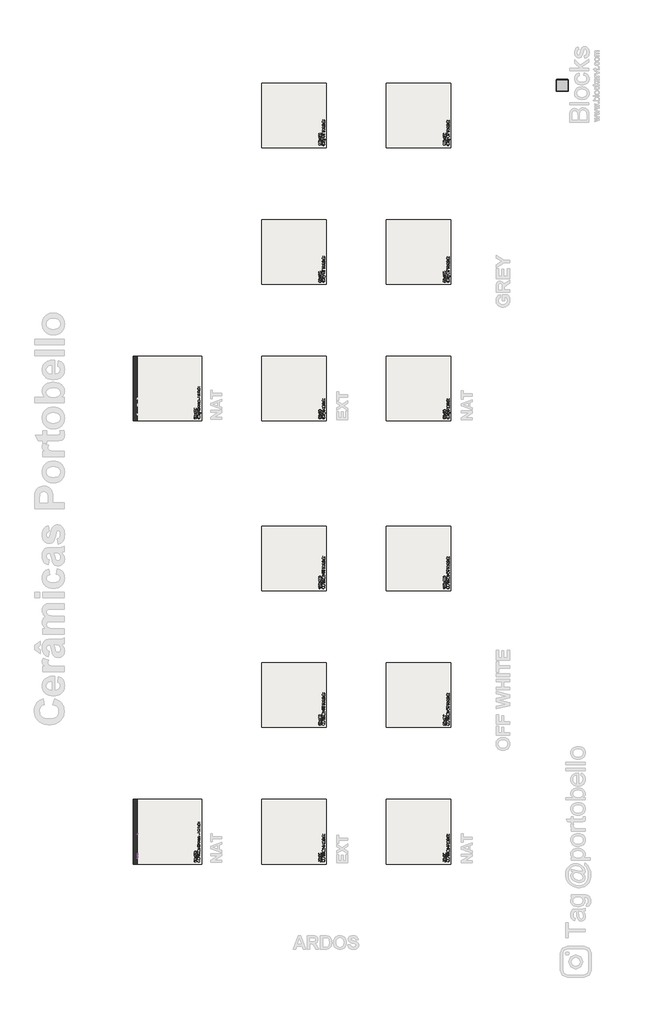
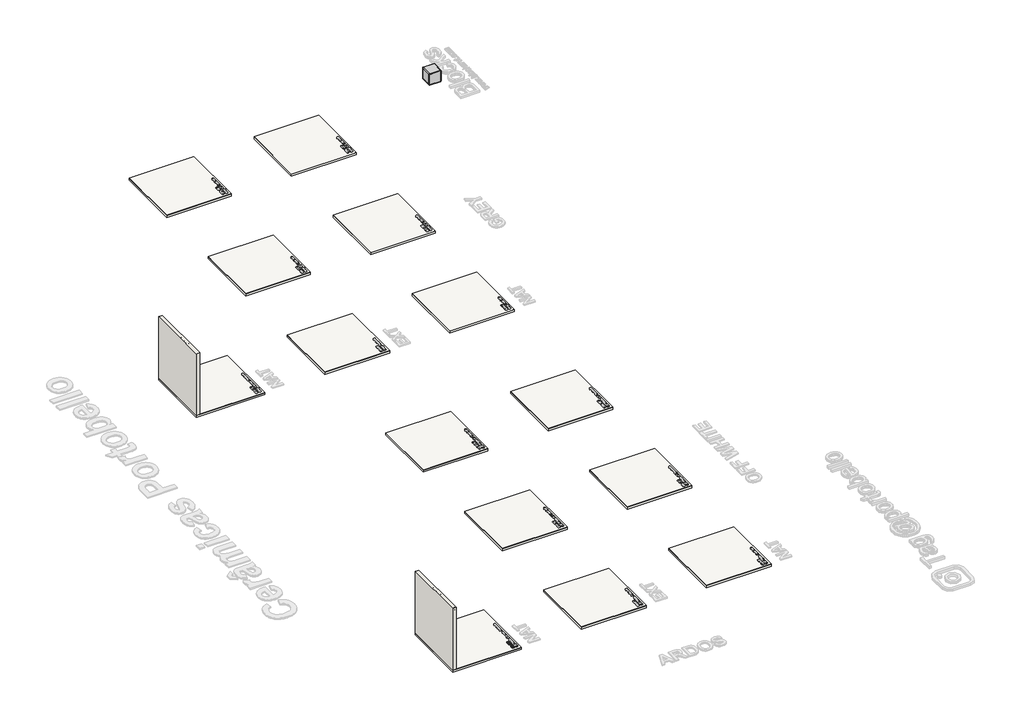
# One storey, part 1 of 12: 28 slabs, 4 proxies, 2 walls, 1 furniture element.
"""IFC4 building model written with IfcOpenShell, lengths in millimetres."""

from ifc_helpers import new_model, si_unit, frame, origin, origin_with_axes, place, context, project, spatial, polyline, outline, extrude, transform, mapped, element, save
from components import branco_22256ad2

model = new_model("IFC4")

# Units and contexts
model_context = context("Model", 3, world=origin())
ifc_project = project(units=[si_unit("LENGTHUNIT", "METRE", prefix="MILLI")], contexts=[model_context])

# Site, building, storey
site = spatial("IfcSite", under=ifc_project)
building = spatial("IfcBuilding", under=site)
storey = spatial("IfcBuildingStorey", under=building, Name="PORTOBELLO - SHOWROOM", Elevation=0.0)

# Proxies
placement = place(None, origin())
element("IfcBuildingElementProxy", 1, Name="10mm Arial", ObjectType="10mm Arial", at=placement, inside=storey, context=model_context, shape_type="SweptSolid", body=[
    extrude(outline(polyline([(-8465.436006, 2565.0933702), (-8462.0882798, 2587.3073114), (-8452.0451014, 2604.1133872), (-8436.7105535, 2614.6899946), (-8417.4887193, 2618.2155303), (-8404.3124125, 2616.5600614), (-8392.4972691, 2611.5936544), (-8382.6870825, 2603.6657974), (-8375.5256464, 2593.1259783), (-8371.1478506, 2580.4831004), (-8369.6885854, 2566.2460672), (-8371.2244927, 2551.8189616), (-8375.8322147, 2538.998274), (-8383.2572996, 2528.4400608), (-8393.2452958, 2520.800378), (-8404.9592717, 2516.1650649), (-8417.5622957, 2514.6199605), (-8430.9409376, 2516.3275461), (-8442.823526, 2521.4503029), (-8452.6091871, 2529.5253127), (-8459.6970469, 2540.0896573), (-8465.436006, 2565.0933702)]), holes=[polyline([(-8452.8789672, 2564.9707429), (-8450.3681726, 2549.2560503), (-8442.8357887, 2537.2814914), (-8431.5142203, 2529.7031223), (-8417.6358721, 2527.1769993), (-8403.5551887, 2529.7276478), (-8392.2152262, 2537.3795933), (-8384.7380247, 2549.7220342), (-8382.2456241, 2566.344169), (-8386.5130553, 2587.0681881), (-8398.9842549, 2600.7901865), (-8417.4151429, 2605.6584916), (-8430.9225435, 2603.3132439), (-8442.4065931, 2596.2775007), (-8450.2608737, 2583.7603158), (-8452.8789672, 2564.9707429)])]), frame((-18710.0482305, 0.0, 0.0), z_axis=(1.0, 0.0, 0.0), x_axis=(0.0, 1.0, 0.0)), (0.0, 0.0, 1.0), 20.0),
    extrude(outline(polyline([(-8310.0426512, 2516.1895903), (-8310.0426512, 2577.4051543), (-8321.0300601, 2577.4051543), (-8321.0300601, 2589.9621931), (-8310.0426512, 2589.9621931), (-8310.0426512, 2597.3934094), (-8308.718276, 2607.8657835), (-8302.2926039, 2615.3460508), (-8289.6374632, 2618.2155303), (-8278.1840704, 2616.8421042), (-8280.0234804, 2605.0698804), (-8287.258493, 2605.6584916), (-8295.1679559, 2603.5738269), (-8297.4856124, 2595.7992541), (-8297.4856124, 2589.9621931), (-8283.3589438, 2589.9621931), (-8283.3589438, 2577.4051543), (-8297.4856124, 2577.4051543), (-8297.4856124, 2516.1895903), (-8310.0426512, 2516.1895903)])), frame((-18710.0482305, 0.0, 0.0), z_axis=(1.0, 0.0, 0.0), x_axis=(0.0, 1.0, 0.0)), (0.0, 0.0, 1.0), 20.0),
    extrude(outline(polyline([(-8350.8530272, 2516.1895903), (-8350.8530272, 2577.4051543), (-8361.8404361, 2577.4051543), (-8361.8404361, 2589.9621931), (-8350.8530272, 2589.9621931), (-8350.8530272, 2597.3934094), (-8349.528652, 2607.8657835), (-8343.1029799, 2615.3460508), (-8330.4478392, 2618.2155303), (-8318.9944464, 2616.8421042), (-8320.8338564, 2605.0698804), (-8328.068869, 2605.6584916), (-8335.9783319, 2603.5738269), (-8338.2959884, 2595.7992541), (-8338.2959884, 2589.9621931), (-8324.1693198, 2589.9621931), (-8324.1693198, 2577.4051543), (-8338.2959884, 2577.4051543), (-8338.2959884, 2516.1895903), (-8350.8530272, 2516.1895903)])), frame((-18710.0482305, 0.0, 0.0), z_axis=(1.0, 0.0, 0.0), x_axis=(0.0, 1.0, 0.0)), (0.0, 0.0, 1.0), 20.0),
    extrude(outline(polyline([(-8213.5839921, 2516.1895903), (-8240.978938, 2616.6459005), (-8228.0294918, 2616.6459005), (-8212.1369896, 2550.6233451), (-8207.2318963, 2530.2426826), (-8201.9834465, 2548.2689003), (-8182.0687678, 2616.6459005), (-8163.4048879, 2616.6459005), (-8148.9348628, 2567.079933), (-8138.1681831, 2530.2426826), (-8133.4102426, 2550.0347339), (-8117.3951131, 2616.6459005), (-8104.4211414, 2616.6459005), (-8131.7915618, 2516.1895903), (-8145.2315174, 2516.1895903), (-8169.3400508, 2593.690064), (-8172.7000397, 2604.5057947), (-8176.4769615, 2591.482772), (-8198.4272539, 2516.1895903), (-8213.5839921, 2516.1895903)])), frame((-18710.0482305, 0.0, 0.0), z_axis=(1.0, 0.0, 0.0), x_axis=(0.0, 1.0, 0.0)), (0.0, 0.0, 1.0), 20.0),
    extrude(outline(polyline([(-8093.4337325, 2516.1895903), (-8093.4337325, 2616.6459005), (-8080.8766937, 2616.6459005), (-8080.8766937, 2579.7105482), (-8071.0849012, 2588.5765043), (-8059.0245032, 2591.531823), (-8044.92236, 2588.3067241), (-8036.3629723, 2579.3917171), (-8033.7877983, 2562.8860783), (-8033.7877983, 2516.1895903), (-8046.3448371, 2516.1895903), (-8046.3448371, 2561.5862285), (-8050.3424881, 2574.8299804), (-8061.6732535, 2578.9747842), (-8071.9616867, 2576.178881), (-8078.8288172, 2568.6005119), (-8080.8766937, 2555.3812856), (-8080.8766937, 2516.1895903), (-8093.4337325, 2516.1895903)])), frame((-18710.0482305, 0.0, 0.0), z_axis=(1.0, 0.0, 0.0), x_axis=(0.0, 1.0, 0.0)), (0.0, 0.0, 1.0), 20.0),
    extrude(outline(polyline([(-18690.0482305, -8003.9648312), (-18690.0482305, -8016.52187), (-18710.0482305, -8016.52187), (-18710.0482305, -8003.9648312), (-18690.0482305, -8003.9648312)])), frame((0.0, 0.0, 2604.0888617), z_axis=(0.0, 0.0, 1.0), x_axis=(1.0, 0.0, 0.0)), (0.0, 0.0, 1.0), 12.5570388),
    extrude(outline(polyline([(-18690.0482305, -8003.9648312), (-18690.0482305, -8016.52187), (-18710.0482305, -8016.52187), (-18710.0482305, -8003.9648312), (-18690.0482305, -8003.9648312)])), frame((0.0, 0.0, 2516.1895903), z_axis=(0.0, 0.0, 1.0), x_axis=(1.0, 0.0, 0.0)), (0.0, 0.0, 1.0), 73.7726028),
    extrude(outline(polyline([(-7958.4455657, 2526.6619645), (-7956.8759358, 2515.8217083), (-7966.2691895, 2514.6199605), (-7976.7906145, 2516.7046251), (-7982.0390643, 2522.1738041), (-7983.5596432, 2536.4231001), (-7983.5596432, 2577.4051543), (-7992.9774223, 2577.4051543), (-7992.9774223, 2589.9621931), (-7983.5596432, 2589.9621931), (-7983.5596432, 2607.890309), (-7971.0026045, 2615.2724744), (-7971.0026045, 2589.9621931), (-7958.4455657, 2589.9621931), (-7958.4455657, 2577.4051543), (-7971.0026045, 2577.4051543), (-7971.0026045, 2536.7909821), (-7970.3404169, 2530.316259), (-7968.1944386, 2528.0231279), (-7963.9147447, 2527.1769993), (-7958.4455657, 2526.6619645)])), frame((-18710.0482305, 0.0, 0.0), z_axis=(1.0, 0.0, 0.0), x_axis=(0.0, 1.0, 0.0)), (0.0, 0.0, 1.0), 20.0),
    extrude(outline(polyline([(-7894.2378948, 2538.1644082), (-7881.9261107, 2536.5947783), (-7886.3621544, 2527.3180207), (-7893.4408171, 2520.3834451), (-7903.0026833, 2516.0608316), (-7914.8883375, 2514.6199605), (-7929.6220114, 2517.1062296), (-7940.9589082, 2524.5650371), (-7948.1877894, 2536.5120049), (-7950.5974165, 2552.4627551), (-7948.1632639, 2568.9499998), (-7940.8608063, 2581.280178), (-7929.6771937, 2588.9689117), (-7915.599576, 2591.531823), (-7901.960351, 2588.9750431), (-7891.0618469, 2581.3047035), (-7883.9157392, 2568.9990508), (-7881.5337032, 2552.5363315), (-7881.6072796, 2549.1518171), (-7938.0403777, 2549.1518171), (-7935.8668082, 2539.7524321), (-7930.8176279, 2532.842382), (-7923.5304987, 2528.5933449), (-7914.6430828, 2527.1769993), (-7902.3312987, 2529.8012242), (-7894.2378948, 2538.1644082)]), holes=[polyline([(-7938.0403777, 2561.7088559), (-7894.090742, 2561.7088559), (-7899.1184626, 2573.0886723), (-7906.4393143, 2577.5032562), (-7915.6486269, 2578.9747842), (-7931.1119335, 2574.2781574), (-7935.9771728, 2568.7875186), (-7938.0403777, 2561.7088559)])]), frame((-18710.0482305, 0.0, 0.0), z_axis=(1.0, 0.0, 0.0), x_axis=(0.0, 1.0, 0.0)), (0.0, 0.0, 1.0), 20.0),
    extrude(outline(polyline([(-7757.5329454, 2551.8986693), (-7744.9759066, 2548.6613078), (-7750.770048, 2534.0288014), (-7759.8628647, 2523.3387638), (-7771.8067668, 2516.7996613), (-7786.1541646, 2514.6199605), (-7800.7192259, 2516.2692981), (-7812.286049, 2521.2173109), (-7821.1520051, 2529.2923207), (-7827.6144655, 2540.3226492), (-7832.875178, 2567.1780349), (-7831.3883216, 2581.8258696), (-7826.9277524, 2594.4748789), (-7819.7264624, 2604.7234582), (-7810.0174434, 2612.1700029), (-7798.5027369, 2616.7041485), (-7785.8843845, 2618.2155303), (-7772.1164008, 2616.2596244), (-7760.7335188, 2610.3919066), (-7752.0913575, 2600.9741275), (-7746.5455365, 2588.3680378), (-7759.1025752, 2585.3759309), (-7769.4032711, 2600.814712), (-7786.3748938, 2605.6584916), (-7806.0197924, 2600.2874144), (-7817.1175659, 2585.8664402), (-7820.3181392, 2567.2025603), (-7816.5289547, 2545.571099), (-7804.7322054, 2531.7509987), (-7787.4049634, 2527.1769993), (-7776.9233922, 2528.7343664), (-7768.1892605, 2533.4064677), (-7761.5949758, 2541.1442523), (-7757.5329454, 2551.8986693)])), frame((-18710.0482305, 0.0, 0.0), z_axis=(1.0, 0.0, 0.0), x_axis=(0.0, 1.0, 0.0)), (0.0, 0.0, 1.0), 20.0),
    extrude(outline(polyline([(-7682.1907128, 2525.6073694), (-7694.3676068, 2517.0970326), (-7707.8198251, 2514.6199605), (-7718.313659, 2516.1098826), (-7726.0545093, 2520.5796488), (-7730.8277782, 2527.3670716), (-7732.4188679, 2535.8099634), (-7730.0153722, 2545.7427773), (-7723.7000646, 2552.9532644), (-7714.9076849, 2557.0735427), (-7704.0429033, 2558.9620036), (-7682.2642892, 2563.2784857), (-7682.1907128, 2566.0743889), (-7685.6488035, 2575.3450152), (-7699.5302175, 2578.9747842), (-7712.2344091, 2576.5590258), (-7718.2921992, 2567.9873753), (-7730.849238, 2569.5570051), (-7725.4168472, 2581.8197383), (-7714.4784892, 2589.0056999), (-7697.9115367, 2591.531823), (-7682.6934848, 2589.3000055), (-7674.0973089, 2583.6959365), (-7670.2468107, 2575.1733369), (-7669.633674, 2564.185928), (-7669.633674, 2548.5632059), (-7668.9960119, 2526.7478036), (-7666.4944143, 2516.1895903), (-7679.0514531, 2516.1895903), (-7682.1907128, 2525.6073694)]), holes=[polyline([(-7682.1907128, 2550.721447), (-7702.448748, 2546.8709487), (-7713.2522159, 2544.835335), (-7718.1450464, 2541.5243971), (-7719.8618291, 2536.6928802), (-7716.1216955, 2529.899326), (-7705.1465493, 2527.1769993), (-7692.4423577, 2530.1813689), (-7684.250852, 2537.4531697), (-7682.2642892, 2547.1652543), (-7682.1907128, 2550.721447)])]), frame((-18710.0482305, 0.0, 0.0), z_axis=(1.0, 0.0, 0.0), x_axis=(0.0, 1.0, 0.0)), (0.0, 0.0, 1.0), 20.0),
    extrude(outline(polyline([(-7587.1300052, 2516.1895903), (-7613.1269996, 2589.9621931), (-7599.8587223, 2589.9621931), (-7584.1133729, 2545.7673028), (-7579.3799579, 2530.9048701), (-7574.7446447, 2544.9334369), (-7558.9257189, 2589.9621931), (-7545.6329162, 2589.9621931), (-7571.2620285, 2516.1895903), (-7587.1300052, 2516.1895903)])), frame((-18710.0482305, 0.0, 0.0), z_axis=(1.0, 0.0, 0.0), x_axis=(0.0, 1.0, 0.0)), (0.0, 0.0, 1.0), 20.0),
    extrude(outline(polyline([(-7652.3677457, 2516.1895903), (-7652.3677457, 2589.9621931), (-7641.3803368, 2589.9621931), (-7641.3803368, 2579.0483606), (-7633.5812385, 2589.1038018), (-7625.7330893, 2591.531823), (-7613.1269996, 2587.6567993), (-7617.3208543, 2576.3996102), (-7626.1500222, 2578.9747842), (-7633.2501447, 2576.4977121), (-7637.7750932, 2569.6305815), (-7639.8107069, 2554.9643526), (-7639.8107069, 2516.1895903), (-7652.3677457, 2516.1895903)])), frame((-18710.0482305, 0.0, 0.0), z_axis=(1.0, 0.0, 0.0), x_axis=(0.0, 1.0, 0.0)), (0.0, 0.0, 1.0), 20.0),
    extrude(outline(polyline([(-7482.9948751, 2538.1644082), (-7470.683091, 2536.5947783), (-7475.1191347, 2527.3180207), (-7482.1977975, 2520.3834451), (-7491.7596637, 2516.0608316), (-7503.6453178, 2514.6199605), (-7518.3789917, 2517.1062296), (-7529.7158885, 2524.5650371), (-7536.9447697, 2536.5120049), (-7539.3543968, 2552.4627551), (-7536.9202443, 2568.9499998), (-7529.6177866, 2581.280178), (-7518.434174, 2588.9689117), (-7504.3565563, 2591.531823), (-7490.7173313, 2588.9750431), (-7479.8188272, 2581.3047035), (-7472.6727195, 2568.9990507), (-7470.2906836, 2552.5363315), (-7470.36426, 2549.1518171), (-7526.797358, 2549.1518171), (-7524.6237886, 2539.7524321), (-7519.5746082, 2532.842382), (-7512.287479, 2528.5933449), (-7503.4000631, 2527.1769993), (-7491.088279, 2529.8012242), (-7482.9948751, 2538.1644082)]), holes=[polyline([(-7526.797358, 2561.7088559), (-7482.8477223, 2561.7088559), (-7487.8754429, 2573.0886723), (-7495.1962946, 2577.5032562), (-7504.4056072, 2578.9747842), (-7519.8689138, 2574.2781574), (-7524.7341532, 2568.7875186), (-7526.797358, 2561.7088559)])]), frame((-18710.0482305, 0.0, 0.0), z_axis=(1.0, 0.0, 0.0), x_axis=(0.0, 1.0, 0.0)), (0.0, 0.0, 1.0), 20.0),
    extrude(outline(polyline([(-7457.7336448, 2516.1895903), (-7457.7336448, 2589.9621931), (-7445.176606, 2589.9621931), (-7445.176606, 2579.6614972), (-7435.5748859, 2588.5642415), (-7422.4660242, 2591.531823), (-7410.6079612, 2589.14059), (-7402.5145573, 2582.8620706), (-7398.7498982, 2573.6282325), (-7398.0877106, 2561.4881267), (-7398.0877106, 2516.1895903), (-7410.6447494, 2516.1895903), (-7410.6447494, 2559.7958695), (-7412.0917519, 2570.9059058), (-7417.2053117, 2576.7797549), (-7425.8260131, 2578.9747842), (-7439.4499096, 2574.0451655), (-7443.7449319, 2566.9021234), (-7445.176606, 2555.3322346), (-7445.176606, 2516.1895903), (-7457.7336448, 2516.1895903)])), frame((-18710.0482305, 0.0, 0.0), z_axis=(1.0, 0.0, 0.0), x_axis=(0.0, 1.0, 0.0)), (0.0, 0.0, 1.0), 20.0),
])
element("IfcBuildingElementProxy", 2, Name="10mm Arial", ObjectType="10mm Arial", at=placement, inside=storey, context=model_context, shape_type="SweptSolid", body=[
    extrude(outline(polyline([(-8401.0811823, 2454.9621931), (-8413.6382211, 2453.3925633), (-8418.3961615, 2463.8649374), (-8430.9777258, 2469.0888617), (-8442.3084912, 2466.0477039), (-8450.8801417, 2454.6310993), (-8454.4485971, 2432.2516113), (-8443.375349, 2442.2702643), (-8429.6533506, 2445.544414), (-8418.052805, 2443.3064652), (-8408.3161949, 2436.5926188), (-8401.712713, 2426.3348425), (-8399.5115524, 2413.4651041), (-8403.6563563, 2396.1378621), (-8415.0606981, 2383.8751289), (-8431.517286, 2379.6199605), (-8445.7635163, 2382.4403891), (-8457.1096102, 2390.901675), (-8464.5316294, 2405.837684), (-8467.0056358, 2428.082282), (-8464.2587836, 2453.0921263), (-8456.0182269, 2470.1925077), (-8444.7671692, 2478.7825523), (-8430.1929108, 2481.6459005), (-8419.1748451, 2479.8739355), (-8410.3518086, 2474.5580407), (-8404.171391, 2466.1151489), (-8401.0811823, 2454.9621931)]), holes=[polyline([(-8454.4485971, 2413.6613078), (-8451.5423293, 2402.7842635), (-8443.8168074, 2394.8870633), (-8432.4983047, 2392.1769993), (-8424.2117627, 2393.5810822), (-8417.6971857, 2397.7933311), (-8413.4757398, 2404.415207), (-8412.0685912, 2413.0481711), (-8413.4573457, 2421.3347131), (-8417.6236093, 2427.6530863), (-8424.2485509, 2431.653803), (-8433.0133395, 2432.9873753), (-8448.2068659, 2427.6530863), (-8452.8881643, 2421.4879972), (-8454.4485971, 2413.6613078)])]), frame((-18710.0482305, 0.0, 0.0), z_axis=(1.0, 0.0, 0.0), x_axis=(0.0, 1.0, 0.0)), (0.0, 0.0, 1.0), 20.0),
    extrude(outline(polyline([(-8388.5241435, 2430.608405), (-8384.8330608, 2459.5116671), (-8373.8701774, 2476.1767215), (-8355.5619168, 2481.6459005), (-8340.8956879, 2478.4085389), (-8330.7666703, 2469.076599), (-8324.8805584, 2454.2141664), (-8322.59969, 2430.608405), (-8326.2539845, 2401.8277703), (-8337.1800797, 2385.1259277), (-8345.4114394, 2380.9964523), (-8355.5619168, 2379.6199605), (-8368.6094648, 2382.0111935), (-8378.5177533, 2389.1848924), (-8386.022546, 2406.1749092), (-8388.5241435, 2430.608405)]), holes=[polyline([(-8375.9671048, 2430.6329305), (-8374.4955768, 2410.880733), (-8370.0809928, 2399.4488), (-8363.5081678, 2393.9949495), (-8355.5619168, 2392.1769993), (-8347.6156657, 2394.0010808), (-8341.0428407, 2399.4733255), (-8336.6282567, 2410.9113899), (-8335.1567288, 2430.6329305), (-8336.5792058, 2449.9406039), (-8340.8466369, 2461.4614417), (-8347.4071992, 2467.1820067), (-8355.7090696, 2469.0888617), (-8363.5694815, 2467.4088673), (-8369.8847891, 2462.3688839), (-8374.4465258, 2450.1306762), (-8375.9671048, 2430.6329305)])]), frame((-18710.0482305, 0.0, 0.0), z_axis=(1.0, 0.0, 0.0), x_axis=(0.0, 1.0, 0.0)), (0.0, 0.0, 1.0), 20.0),
    extrude(outline(polyline([(-8316.3211706, 2381.1895903), (-8289.4903104, 2418.2966209), (-8314.7515408, 2454.9621931), (-8299.6929044, 2454.9621931), (-8287.5037476, 2437.2793319), (-8281.789314, 2428.9651988), (-8276.8351698, 2435.7832784), (-8262.9537558, 2454.9621931), (-8247.8460686, 2454.9621931), (-8274.3826232, 2418.2720955), (-8248.8270872, 2381.1895903), (-8263.910249, 2381.1895903), (-8279.3122419, 2403.5077647), (-8282.108145, 2407.6035176), (-8301.2134833, 2381.1895903), (-8316.3211706, 2381.1895903)])), frame((-18710.0482305, 0.0, 0.0), z_axis=(1.0, 0.0, 0.0), x_axis=(0.0, 1.0, 0.0)), (0.0, 0.0, 1.0), 20.0),
    extrude(outline(polyline([(-8193.8900426, 2381.1895903), (-8206.4470814, 2381.1895903), (-8206.4470814, 2459.4748789), (-8218.3419326, 2451.0013303), (-8231.5611589, 2444.6614972), (-8231.5611589, 2456.531823), (-8213.1547964, 2468.2795213), (-8201.9834465, 2481.6459005), (-8193.8900426, 2481.6459005), (-8193.8900426, 2381.1895903)])), frame((-18710.0482305, 0.0, 0.0), z_axis=(1.0, 0.0, 0.0), x_axis=(0.0, 1.0, 0.0)), (0.0, 0.0, 1.0), 20.0),
    extrude(outline(polyline([(-8099.7122518, 2393.7466291), (-8099.7122518, 2381.1895903), (-8165.6367054, 2381.1895903), (-8164.2878047, 2389.84708), (-8156.648122, 2403.1766709), (-8140.9150353, 2417.7325352), (-8119.2467858, 2438.652758), (-8113.8389205, 2452.8775285), (-8118.9524802, 2464.3922349), (-8132.3065966, 2469.0888617), (-8146.2247988, 2464.5025995), (-8151.5100368, 2451.8229334), (-8164.0670755, 2453.3925633), (-8161.022852, 2465.5388005), (-8154.44083, 2474.4108879), (-8144.664366, 2479.8371473), (-8132.0368165, 2481.6459005), (-8119.3172965, 2479.6348123), (-8109.5592266, 2473.6015475), (-8103.3512179, 2464.5884386), (-8101.2818817, 2453.6378179), (-8103.5136991, 2441.730704), (-8110.9326527, 2429.4189199), (-8128.9220823, 2412.2143053), (-8143.3675819, 2400.1355131), (-8149.0329647, 2393.7466291), (-8099.7122518, 2393.7466291)])), frame((-18710.0482305, 0.0, 0.0), z_axis=(1.0, 0.0, 0.0), x_axis=(0.0, 1.0, 0.0)), (0.0, 0.0, 1.0), 20.0),
    extrude(outline(polyline([(-8087.1552131, 2430.608405), (-8083.4641304, 2459.5116671), (-8072.5012469, 2476.1767215), (-8054.1929863, 2481.6459005), (-8039.5267574, 2478.4085389), (-8029.3977398, 2469.076599), (-8023.5116279, 2454.2141664), (-8021.2307595, 2430.608405), (-8024.885054, 2401.8277703), (-8035.8111493, 2385.1259277), (-8044.0425089, 2380.9964523), (-8054.1929863, 2379.6199605), (-8067.2405344, 2382.0111935), (-8077.1488228, 2389.1848924), (-8084.6536155, 2406.1749092), (-8087.1552131, 2430.608405)]), holes=[polyline([(-8074.5981743, 2430.6329305), (-8073.1266463, 2410.880733), (-8068.7120624, 2399.4488), (-8062.1392374, 2393.9949495), (-8054.1929863, 2392.1769993), (-8046.2467352, 2394.0010808), (-8039.6739102, 2399.4733255), (-8035.2593263, 2410.9113899), (-8033.7877983, 2430.6329305), (-8035.2102754, 2449.9406039), (-8039.4777065, 2461.4614417), (-8046.0382687, 2467.1820067), (-8054.3401391, 2469.0888617), (-8062.2005511, 2467.4088673), (-8068.5158587, 2462.3688839), (-8073.0775954, 2450.1306762), (-8074.5981743, 2430.6329305)])]), frame((-18710.0482305, 0.0, 0.0), z_axis=(1.0, 0.0, 0.0), x_axis=(0.0, 1.0, 0.0)), (0.0, 0.0, 1.0), 20.0),
])
element("IfcBuildingElementProxy", 3, Name="10mm Arial", ObjectType="10mm Arial", at=placement, inside=storey, context=model_context, shape_type="SweptSolid", body=[
    extrude(outline(polyline([(-16299.3925494, -8397.7241802), (-16297.8229195, -8410.281219), (-16308.2952937, -8415.0391594), (-16313.519218, -8427.6207237), (-16310.4780602, -8438.9514891), (-16299.0614556, -8447.5231396), (-16276.6819675, -8451.091595), (-16286.7006205, -8440.0183469), (-16289.9747703, -8426.2963485), (-16287.7368215, -8414.6958029), (-16281.0229751, -8404.9591928), (-16270.7651988, -8398.355711), (-16257.8954603, -8396.1545504), (-16240.5682184, -8400.2993542), (-16228.3054852, -8411.703696), (-16224.0503168, -8428.1602839), (-16226.8707454, -8442.4065142), (-16235.3320313, -8453.7526081), (-16250.2680403, -8461.1746273), (-16272.5126383, -8463.6486337), (-16297.5224826, -8460.9017815), (-16314.622864, -8452.6612248), (-16323.2129086, -8441.4101671), (-16326.0762568, -8426.8359088), (-16324.3042918, -8415.817843), (-16318.988397, -8406.9948065), (-16310.5455052, -8400.814389), (-16299.3925494, -8397.7241802)]), holes=[polyline([(-16258.0916641, -8451.091595), (-16247.2146197, -8448.1853272), (-16239.3174196, -8440.4598053), (-16236.6073555, -8429.1413026), (-16238.0114385, -8420.8547607), (-16242.2236873, -8414.3401837), (-16248.8455632, -8410.1187378), (-16257.4785274, -8408.7115891), (-16265.7650693, -8410.1003437), (-16272.0834426, -8414.2666073), (-16276.0841593, -8420.8915489), (-16277.4177315, -8429.6563374), (-16272.0834426, -8444.8498638), (-16265.9183535, -8449.5311622), (-16258.0916641, -8451.091595)])]), origin_with_axes(), (0.0, 0.0, 1.0), 20.0),
    extrude(outline(polyline([(-16275.0387613, -8385.1671414), (-16303.9420234, -8381.4760588), (-16320.6070778, -8370.5131753), (-16326.0762568, -8352.2049147), (-16322.8388952, -8337.5386858), (-16313.5069553, -8327.4096682), (-16298.6445227, -8321.5235563), (-16275.0387613, -8319.2426879), (-16246.2581265, -8322.8969824), (-16229.556284, -8333.8230776), (-16225.4268086, -8342.0544373), (-16224.0503168, -8352.2049147), (-16226.4415497, -8365.2524628), (-16233.6152486, -8375.1607512), (-16250.6052655, -8382.6655439), (-16275.0387613, -8385.1671414)]), holes=[polyline([(-16275.0632868, -8372.6101027), (-16255.3110893, -8371.1385747), (-16243.8791563, -8366.7239907), (-16238.4253057, -8360.1511658), (-16236.6073555, -8352.2049147), (-16238.4314371, -8344.2586636), (-16243.9036818, -8337.6858386), (-16255.3417461, -8333.2712546), (-16275.0632868, -8331.7997267), (-16294.3709601, -8333.2222037), (-16305.891798, -8337.4896349), (-16311.612363, -8344.0501971), (-16313.519218, -8352.3520675), (-16311.8392235, -8360.2124794), (-16306.7992402, -8366.527787), (-16294.5610325, -8371.0895238), (-16275.0632868, -8372.6101027)])]), origin_with_axes(), (0.0, 0.0, 1.0), 20.0),
    extrude(outline(polyline([(-16225.6199466, -8312.9641685), (-16262.7269772, -8286.1333083), (-16299.3925494, -8311.3945387), (-16299.3925494, -8296.3359023), (-16281.7096881, -8284.1467456), (-16273.3955551, -8278.4323119), (-16280.2136347, -8273.4781677), (-16299.3925494, -8259.5967537), (-16299.3925494, -8244.4890665), (-16262.7024517, -8271.0256211), (-16225.6199466, -8245.4700851), (-16225.6199466, -8260.5532469), (-16247.938121, -8275.9552398), (-16252.0338739, -8278.751143), (-16225.6199466, -8297.8564812), (-16225.6199466, -8312.9641685)])), origin_with_axes(), (0.0, 0.0, 1.0), 20.0),
    extrude(outline(polyline([(-16225.6199466, -8190.5330405), (-16225.6199466, -8203.0900793), (-16303.9052352, -8203.0900793), (-16295.4316866, -8214.9849305), (-16289.0918535, -8228.2041568), (-16300.9621792, -8228.2041568), (-16312.7098776, -8209.7977943), (-16326.0762568, -8198.6264444), (-16326.0762568, -8190.5330405), (-16225.6199466, -8190.5330405)])), origin_with_axes(), (0.0, 0.0, 1.0), 20.0),
    extrude(outline(polyline([(-16238.1769854, -8096.3552498), (-16225.6199466, -8096.3552498), (-16225.6199466, -8162.2797033), (-16234.2774362, -8160.9308026), (-16247.6070272, -8153.2911199), (-16262.1628915, -8137.5580332), (-16283.0831143, -8115.8897837), (-16297.3078847, -8110.4819184), (-16308.8225912, -8115.5954781), (-16313.519218, -8128.9495945), (-16308.9329558, -8142.8677967), (-16296.2532897, -8148.1530347), (-16297.8229195, -8160.7100734), (-16309.9691567, -8157.6658499), (-16318.8412442, -8151.0838279), (-16324.2675036, -8141.3073639), (-16326.0762568, -8128.6798144), (-16324.0651685, -8115.9602944), (-16318.0319038, -8106.2022245), (-16309.0187949, -8099.9942158), (-16298.0681742, -8097.9248796), (-16286.1610603, -8100.156697), (-16273.8492762, -8107.5756506), (-16256.6446615, -8125.5650802), (-16244.5658694, -8140.0105798), (-16238.1769854, -8145.6759626), (-16238.1769854, -8096.3552498)])), origin_with_axes(), (0.0, 0.0, 1.0), 20.0),
    extrude(outline(polyline([(-16275.0387613, -8083.798211), (-16303.9420234, -8080.1071283), (-16320.6070778, -8069.1442448), (-16326.0762568, -8050.8359842), (-16322.8388952, -8036.1697553), (-16313.5069553, -8026.0407377), (-16298.6445227, -8020.1546258), (-16275.0387613, -8017.8737575), (-16246.2581265, -8021.5280519), (-16229.556284, -8032.4541472), (-16225.4268086, -8040.6855068), (-16224.0503168, -8050.8359842), (-16226.4415497, -8063.8835323), (-16233.6152486, -8073.7918207), (-16250.6052655, -8081.2966134), (-16275.0387613, -8083.798211)]), holes=[polyline([(-16275.0632868, -8071.2411722), (-16255.3110893, -8069.7696442), (-16243.8791563, -8065.3550603), (-16238.4253057, -8058.7822353), (-16236.6073555, -8050.8359842), (-16238.4314371, -8042.8897331), (-16243.9036818, -8036.3169081), (-16255.3417461, -8031.9023242), (-16275.0632868, -8030.4307962), (-16294.3709601, -8031.8532733), (-16305.891798, -8036.1207044), (-16311.612363, -8042.6812667), (-16313.519218, -8050.983137), (-16311.8392235, -8058.843549), (-16306.7992402, -8065.1588566), (-16294.5610325, -8069.7205933), (-16275.0632868, -8071.2411722)])]), origin_with_axes(), (0.0, 0.0, 1.0), 20.0),
])
element("IfcBuildingElementProxy", 4, Name="10mm Arial Narrow", ObjectType="10mm Arial Narrow", at=placement, inside=storey, context=model_context, shape_type="SweptSolid", body=[
    extrude(outline(polyline([(-7316.9412929, 2516.1895903), (-7316.9412929, 2616.9081941), (-7285.6444082, 2616.9081941), (-7269.3487067, 2615.0298734), (-7257.8757206, 2605.5494302), (-7253.5860421, 2588.5303214), (-7255.3723505, 2576.4544958), (-7260.7312757, 2566.8281021), (-7270.4750646, 2560.5268436), (-7285.4159638, 2558.4264242), (-7307.1943312, 2558.4264242), (-7307.1943312, 2516.1895903), (-7316.9412929, 2516.1895903)]), holes=[polyline([(-7307.1943312, 2569.7978794), (-7284.2229763, 2569.7978794), (-7268.3587809, 2574.3286936), (-7263.3330038, 2587.9972844), (-7265.8078183, 2598.1630608), (-7271.7854471, 2603.9630106), (-7284.4514207, 2605.5367388), (-7307.1943312, 2605.5367388), (-7307.1943312, 2569.7978794)])]), frame((-18710.0482305, 0.0, 0.0), z_axis=(1.0, 0.0, 0.0), x_axis=(0.0, 1.0, 0.0)), (0.0, 0.0, 1.0), 20.0),
    extrude(outline(polyline([(-7245.4635741, 2552.7406965), (-7243.5091052, 2569.3314721), (-7237.6456986, 2581.2835569), (-7228.7871319, 2588.5081115), (-7217.8471827, 2590.9162964), (-7207.0341472, 2588.5081115), (-7198.1501977, 2581.2835569), (-7192.210643, 2569.5218424), (-7190.2307914, 2553.5021779), (-7192.1757417, 2536.3402913), (-7198.0105928, 2524.1978362), (-7206.859641, 2516.9732816), (-7217.8471827, 2514.5650967), (-7228.7078109, 2516.9796273), (-7237.5822418, 2524.2232189), (-7243.493241, 2536.1816494), (-7245.4635741, 2552.7406965)]), holes=[polyline([(-7235.7166124, 2552.7660793), (-7234.4125756, 2540.2143279), (-7230.500465, 2531.3430698), (-7224.6592682, 2526.0698112), (-7217.5679729, 2524.3120584), (-7210.8478997, 2526.0856754), (-7205.1558264, 2531.4065266), (-7201.2722714, 2540.2936488), (-7199.977753, 2552.7660793), (-7201.2817899, 2565.2797566), (-7205.1939005, 2574.1383233), (-7211.0350972, 2579.4115818), (-7218.1263926, 2581.1693347), (-7224.8940583, 2579.4020633), (-7230.5766131, 2574.1002492), (-7234.4316126, 2565.232164), (-7235.7166124, 2552.7660793)])]), frame((-18710.0482305, 0.0, 0.0), z_axis=(1.0, 0.0, 0.0), x_axis=(0.0, 1.0, 0.0)), (0.0, 0.0, 1.0), 20.0),
    extrude(outline(polyline([(-7118.7530726, 2524.3120584), (-7117.128579, 2514.5650967), (-7124.4895657, 2514.5650967), (-7132.76433, 2516.6845532), (-7137.0793911, 2522.4845031), (-7138.2469959, 2537.1303283), (-7138.2469959, 2579.5448411), (-7146.3694639, 2579.5448411), (-7146.3694639, 2582.7938283), (-7147.9939576, 2577.9203475), (-7155.5580059, 2579.5448411), (-7161.6371656, 2577.2223229), (-7165.5080293, 2570.7370398), (-7167.4878809, 2555.3297332), (-7167.4878809, 2516.1895903), (-7177.2348425, 2516.1895903), (-7177.2348425, 2589.2918027), (-7167.4878809, 2589.2918027), (-7167.4878809, 2579.5956065), (-7161.2437336, 2588.6826176), (-7154.84729, 2590.9162964), (-7146.3694639, 2589.2918027), (-7138.2469959, 2589.2918027), (-7138.2469959, 2605.5367388), (-7128.5000342, 2613.6592069), (-7128.5000342, 2589.2918027), (-7118.7530726, 2589.2918027), (-7118.7530726, 2579.5448411), (-7128.5000342, 2579.5448411), (-7128.5000342, 2534.8966496), (-7127.637022, 2526.9010951), (-7123.0173683, 2524.3120584), (-7118.7530726, 2524.3120584)])), frame((-18710.0482305, 0.0, 0.0), z_axis=(1.0, 0.0, 0.0), x_axis=(0.0, 1.0, 0.0)), (0.0, 0.0, 1.0), 20.0),
    extrude(outline(polyline([(-7112.2550982, 2552.7406965), (-7110.3006293, 2569.3314721), (-7104.4372227, 2581.2835569), (-7095.578656, 2588.5081115), (-7084.6387068, 2590.9162964), (-7073.8256712, 2588.5081115), (-7064.9417218, 2581.2835569), (-7059.002167, 2569.5218424), (-7057.0223155, 2553.5021779), (-7058.9672658, 2536.3402913), (-7064.8021169, 2524.1978362), (-7073.6511651, 2516.9732816), (-7084.6387068, 2514.5650967), (-7095.499335, 2516.9796273), (-7104.3737659, 2524.2232189), (-7110.2847651, 2536.1816494), (-7112.2550982, 2552.7406965)]), holes=[polyline([(-7102.5081365, 2552.7660793), (-7101.2040996, 2540.2143279), (-7097.2919891, 2531.3430698), (-7091.4507923, 2526.0698112), (-7084.359497, 2524.3120584), (-7077.6394238, 2526.0856754), (-7071.9473505, 2531.4065266), (-7068.0637955, 2540.2936488), (-7066.7692771, 2552.7660793), (-7068.073314, 2565.2797566), (-7071.9854246, 2574.1383233), (-7077.8266213, 2579.4115818), (-7084.9179166, 2581.1693347), (-7091.6855824, 2579.4020633), (-7097.3681372, 2574.1002492), (-7101.2231367, 2565.232164), (-7102.5081365, 2552.7660793)])]), frame((-18710.0482305, 0.0, 0.0), z_axis=(1.0, 0.0, 0.0), x_axis=(0.0, 1.0, 0.0)), (0.0, 0.0, 1.0), 20.0),
    extrude(outline(polyline([(-7034.2794049, 2516.1895903), (-7044.0263666, 2516.1895903), (-7044.0263666, 2616.9081941), (-7034.2794049, 2616.9081941), (-7034.2794049, 2581.49931), (-7026.8803442, 2588.5810868), (-7017.6791109, 2590.9162964), (-7004.7973842, 2586.7154574), (-6995.5200027, 2573.986027), (-6992.0425711, 2553.2991162), (-6993.9748301, 2536.8447728), (-6999.7716071, 2524.6420337), (-7008.1447294, 2517.084331), (-7017.8060244, 2514.5650967), (-7027.1468627, 2517.1795161), (-7034.2794049, 2524.9466262), (-7034.2794049, 2516.1895903)]), holes=[polyline([(-7034.2794049, 2553.2991162), (-7032.1980225, 2536.051563), (-7026.3092332, 2527.3199098), (-7017.8567899, 2524.3120584), (-7011.9140623, 2526.1015396), (-7006.6757049, 2531.4699834), (-7001.7895328, 2552.8929928), (-7006.4980259, 2574.3286936), (-7011.7427289, 2579.4591744), (-7018.0598516, 2581.1693347), (-7024.0374804, 2579.3798535), (-7029.329776, 2574.0114097), (-7034.2794049, 2553.2991162)])]), frame((-18710.0482305, 0.0, 0.0), z_axis=(1.0, 0.0, 0.0), x_axis=(0.0, 1.0, 0.0)), (0.0, 0.0, 1.0), 20.0),
    extrude(outline(polyline([(-6940.0587756, 2538.9325009), (-6930.311814, 2537.3080073), (-6934.0113443, 2527.4214407), (-6939.8303312, 2520.3015898), (-6947.5339845, 2515.99922), (-6956.8875141, 2514.5650967), (-6968.4810681, 2516.9796273), (-6977.6251903, 2524.2232189), (-6983.5647451, 2536.0293531), (-6985.5445967, 2552.1315114), (-6983.5552266, 2568.7984351), (-6977.5871163, 2580.9789644), (-6968.5730804, 2588.4319634), (-6957.4459338, 2590.9162964), (-6946.7629846, 2588.51763), (-6938.0154672, 2581.321631), (-6932.1806162, 2569.5821264), (-6930.2356658, 2553.5529433), (-6930.311814, 2550.3039561), (-6975.797635, 2550.3039561), (-6969.7946235, 2530.8607982), (-6963.8645872, 2525.9492434), (-6956.7606005, 2524.3120584), (-6946.5821328, 2527.967169), (-6940.0587756, 2538.9325009)]), holes=[polyline([(-6975.1376845, 2560.0509178), (-6940.0587756, 2560.0509178), (-6944.3230713, 2574.3160023), (-6950.1484039, 2579.4560016), (-6957.3697856, 2581.1693347), (-6969.5788704, 2575.4582244), (-6975.1376845, 2560.0509178)])]), frame((-18710.0482305, 0.0, 0.0), z_axis=(1.0, 0.0, 0.0), x_axis=(0.0, 1.0, 0.0)), (0.0, 0.0, 1.0), 20.0),
    extrude(outline(polyline([(-18690.0482305, -6907.5689034), (-18690.0482305, -6917.3158651), (-18710.0482305, -6917.3158651), (-18710.0482305, -6907.5689034), (-18690.0482305, -6907.5689034)])), frame((0.0, 0.0, 2516.1895903), z_axis=(0.0, 0.0, 1.0), x_axis=(1.0, 0.0, 0.0)), (0.0, 0.0, 1.0), 100.7186038),
    extrude(outline(polyline([(-18690.0482305, -6881.5770057), (-18690.0482305, -6891.3239673), (-18710.0482305, -6891.3239673), (-18710.0482305, -6881.5770057), (-18690.0482305, -6881.5770057)])), frame((0.0, 0.0, 2516.1895903), z_axis=(0.0, 0.0, 1.0), x_axis=(1.0, 0.0, 0.0)), (0.0, 0.0, 1.0), 100.7186038),
    extrude(outline(polyline([(-6870.2055504, 2552.7406965), (-6868.2510816, 2569.3314721), (-6862.3876749, 2581.2835569), (-6853.5291082, 2588.5081115), (-6842.5891591, 2590.9162964), (-6831.7761235, 2588.5081115), (-6822.8921741, 2581.2835569), (-6816.9526193, 2569.5218424), (-6814.9727677, 2553.5021779), (-6816.9177181, 2536.3402913), (-6822.7525692, 2524.1978362), (-6831.6016173, 2516.9732816), (-6842.5891591, 2514.5650967), (-6853.4497872, 2516.9796273), (-6862.3242182, 2524.2232189), (-6868.2352174, 2536.1816494), (-6870.2055504, 2552.7406965)]), holes=[polyline([(-6860.4585888, 2552.7660793), (-6859.1545519, 2540.2143279), (-6855.2424413, 2531.3430698), (-6849.4012446, 2526.0698112), (-6842.3099492, 2524.3120584), (-6835.5898761, 2526.0856754), (-6829.8978028, 2531.4065266), (-6826.0142477, 2540.2936488), (-6824.7197294, 2552.7660793), (-6826.0237662, 2565.2797566), (-6829.9358768, 2574.1383233), (-6835.7770736, 2579.4115818), (-6842.8683689, 2581.1693347), (-6849.6360347, 2579.4020633), (-6855.3185895, 2574.1002492), (-6859.1735889, 2565.232164), (-6860.4585888, 2552.7660793)])]), frame((-18710.0482305, 0.0, 0.0), z_axis=(1.0, 0.0, 0.0), x_axis=(0.0, 1.0, 0.0)), (0.0, 0.0, 1.0), 20.0),
])

# Furniture
branco_shape = branco_22256ad2(model_context)
element("IfcFurniture", 5, ObjectType="Blks_Mob_Blocks Revit_Cubo : Branco", at=placement, inside=storey, context=model_context, shape_type="MappedRepresentation", body=[
    mapped(branco_shape, transform((-964.7851729, 23956.268986, 0.0), x_axis=(1.0, 0.0, 0.0), y_axis=(0.0, 1.0, 0.0), z_axis=(0.0, 0.0, 1.0))),
])

# Slabs
element("IfcSlab", 6, ObjectType="PORTOBELLO - LAJE", at=placement, inside=storey, context=model_context, shape_type="SweptSolid", body=[
    extrude(outline(polyline([(-10810.0232144, -5845.8665689), (-10810.0232144, -8545.8665689), (-13510.0232144, -8545.8665689), (-13510.0232144, -5845.8665689), (-10810.0232144, -5845.8665689)])), frame((0.0, 0.0, -80.0), z_axis=(0.0, 0.0, 1.0), x_axis=(1.0, 0.0, 0.0)), (0.0, 0.0, 1.0), 80.0),
])
element("IfcSlab", 7, ObjectType="PORTOBELLO - ARDOS OFF WHITE 90X90 EXT RET", at=placement, inside=storey, context=model_context, shape_type="SweptSolid", body=[
    extrude(outline(polyline([(-10810.0232144, -8545.8665689), (-13510.0232144, -8545.8665689), (-13510.0232144, -5845.8665689), (-10810.0232144, -5845.8665689), (-10810.0232144, -8545.8665689)])), origin_with_axes(), (0.0, 0.0, 1.0), 18.0),
])
element("IfcSlab", 8, ObjectType="PORTOBELLO - LAJE", at=placement, inside=storey, context=model_context, shape_type="SweptSolid", body=[
    extrude(outline(polyline([(-5609.9981983, -5845.8665689), (-5609.9981983, -8545.8665689), (-8309.9981983, -8545.8665689), (-8309.9981983, -5845.8665689), (-5609.9981983, -5845.8665689)])), frame((0.0, 0.0, -80.0), z_axis=(0.0, 0.0, 1.0), x_axis=(1.0, 0.0, 0.0)), (0.0, 0.0, 1.0), 80.0),
])
element("IfcSlab", 9, ObjectType="PORTOBELLO - ARDOS OFF WHITE 90X90 NAT RET", at=placement, inside=storey, context=model_context, shape_type="SweptSolid", body=[
    extrude(outline(polyline([(-5609.9981983, -8545.8665689), (-8309.9981983, -8545.8665689), (-8309.9981983, -5845.8665689), (-5609.9981983, -5845.8665689), (-5609.9981983, -8545.8665689)])), origin_with_axes(), (0.0, 0.0, 1.0), 18.0),
])
element("IfcSlab", 10, ObjectType="PORTOBELLO - LAJE", at=placement, inside=storey, context=model_context, shape_type="SweptSolid", body=[
    extrude(outline(polyline([(-5609.9981983, -145.8665689), (-5609.9981983, -2845.8665689), (-8309.9981983, -2845.8665689), (-8309.9981983, -145.8665689), (-5609.9981983, -145.8665689)])), frame((0.0, 0.0, -80.0), z_axis=(0.0, 0.0, 1.0), x_axis=(1.0, 0.0, 0.0)), (0.0, 0.0, 1.0), 80.0),
])
element("IfcSlab", 11, ObjectType="PORTOBELLO - ARDOS OFF WHITE ST 60X120 NAT RET", at=placement, inside=storey, context=model_context, shape_type="SweptSolid", body=[
    extrude(outline(polyline([(-5609.9981983, -2845.8665689), (-8309.9981983, -2845.8665689), (-8309.9981983, -145.8665689), (-5609.9981983, -145.8665689), (-5609.9981983, -2845.8665689)])), origin_with_axes(), (0.0, 0.0, 1.0), 19.0),
])
element("IfcSlab", 12, ObjectType="PORTOBELLO - LAJE", at=placement, inside=storey, context=model_context, shape_type="SweptSolid", body=[
    extrude(outline(polyline([(-10810.0232144, -145.8665689), (-10810.0232144, -2845.8665689), (-13510.0232144, -2845.8665689), (-13510.0232144, -145.8665689), (-10810.0232144, -145.8665689)])), frame((0.0, 0.0, -80.0), z_axis=(0.0, 0.0, 1.0), x_axis=(1.0, 0.0, 0.0)), (0.0, 0.0, 1.0), 80.0),
])
element("IfcSlab", 13, ObjectType="PORTOBELLO - ARDOS OFF WHITE ST 60X120 EXT RET", at=placement, inside=storey, context=model_context, shape_type="SweptSolid", body=[
    extrude(outline(polyline([(-10810.0232144, -2845.8665689), (-13510.0232144, -2845.8665689), (-13510.0232144, -145.8665689), (-10810.0232144, -145.8665689), (-10810.0232144, -2845.8665689)])), origin_with_axes(), (0.0, 0.0, 1.0), 19.0),
])
element("IfcSlab", 14, ObjectType="PORTOBELLO - LAJE", at=placement, inside=storey, context=model_context, shape_type="SweptSolid", body=[
    extrude(outline(polyline([(-5609.9981983, 5554.1334311), (-5609.9981983, 2854.1334311), (-8309.9981983, 2854.1334311), (-8309.9981983, 5554.1334311), (-5609.9981983, 5554.1334311)])), frame((0.0, 0.0, -80.0), z_axis=(0.0, 0.0, 1.0), x_axis=(1.0, 0.0, 0.0)), (0.0, 0.0, 1.0), 80.0),
])
element("IfcSlab", 15, ObjectType="PORTOBELLO - ARDOS OFF WHITE ST 120X120 NAT RET", at=placement, inside=storey, context=model_context, shape_type="SweptSolid", body=[
    extrude(outline(polyline([(-5609.9981983, 2854.1334311), (-8309.9981983, 2854.1334311), (-8309.9981983, 5554.1334311), (-5609.9981983, 5554.1334311), (-5609.9981983, 2854.1334311)])), origin_with_axes(), (0.0, 0.0, 1.0), 17.0),
])
element("IfcSlab", 16, ObjectType="PORTOBELLO - LAJE", at=placement, inside=storey, context=model_context, shape_type="SweptSolid", body=[
    extrude(outline(polyline([(-10810.0232144, 5554.1334311), (-10810.0232144, 2854.1334311), (-13510.0232144, 2854.1334311), (-13510.0232144, 5554.1334311), (-10810.0232144, 5554.1334311)])), frame((0.0, 0.0, -80.0), z_axis=(0.0, 0.0, 1.0), x_axis=(1.0, 0.0, 0.0)), (0.0, 0.0, 1.0), 80.0),
])
element("IfcSlab", 17, ObjectType="PORTOBELLO - ARDOS OFF WHITE ST 120X120 EXT RET", at=placement, inside=storey, context=model_context, shape_type="SweptSolid", body=[
    extrude(outline(polyline([(-10810.0232144, 2854.1334311), (-13510.0232144, 2854.1334311), (-13510.0232144, 5554.1334311), (-10810.0232144, 5554.1334311), (-10810.0232144, 2854.1334311)])), origin_with_axes(), (0.0, 0.0, 1.0), 17.0),
])
element("IfcSlab", 18, ObjectType="PORTOBELLO - ARDOS OFF WHITE CARVEN 60X120 NAT RET", at=placement, inside=storey, context=model_context, shape_type="SweptSolid", body=[
    extrude(outline(polyline([(-16010.0482305, -8545.8665689), (-18710.0482305, -8545.8665689), (-18710.0482305, -5845.8665689), (-16010.0482305, -5845.8665689), (-16010.0482305, -8545.8665689)])), frame((0.0, 0.0, -19.0), z_axis=(0.0, 0.0, 1.0), x_axis=(1.0, 0.0, 0.0)), (0.0, 0.0, 1.0), 19.0),
])
element("IfcSlab", 19, ObjectType="PORTOBELLO - LAJE", at=placement, inside=storey, context=model_context, shape_type="SweptSolid", body=[
    extrude(outline(polyline([(-16010.0482305, -5845.8665689), (-16010.0482305, -8545.8665689), (-18860.0482305, -8545.8665689), (-18860.0482305, -5845.8665689), (-16010.0482305, -5845.8665689)])), frame((0.0, 0.0, -99.0), z_axis=(0.0, 0.0, 1.0), x_axis=(1.0, 0.0, 0.0)), (0.0, 0.0, 1.0), 80.0),
])
element("IfcSlab", 20, ObjectType="PORTOBELLO - LAJE", at=placement, inside=storey, context=model_context, shape_type="SweptSolid", body=[
    extrude(outline(polyline([(-10810.0232144, 12654.1334311), (-10810.0232144, 9954.1334311), (-13510.0232144, 9954.1334311), (-13510.0232144, 12654.1334311), (-10810.0232144, 12654.1334311)])), frame((0.0, 0.0, -80.0), z_axis=(0.0, 0.0, 1.0), x_axis=(1.0, 0.0, 0.0)), (0.0, 0.0, 1.0), 80.0),
])
element("IfcSlab", 21, ObjectType="PORTOBELLO - ARDOS GREY 90X90 EXT RET", at=placement, inside=storey, context=model_context, shape_type="SweptSolid", body=[
    extrude(outline(polyline([(-10810.0232144, 9954.1334311), (-13510.0232144, 9954.1334311), (-13510.0232144, 12654.1334311), (-10810.0232144, 12654.1334311), (-10810.0232144, 9954.1334311)])), origin_with_axes(), (0.0, 0.0, 1.0), 18.0),
])
element("IfcSlab", 22, ObjectType="PORTOBELLO - LAJE", at=placement, inside=storey, context=model_context, shape_type="SweptSolid", body=[
    extrude(outline(polyline([(-5609.9981983, 12654.1334311), (-5609.9981983, 9954.1334311), (-8309.9981983, 9954.1334311), (-8309.9981983, 12654.1334311), (-5609.9981983, 12654.1334311)])), frame((0.0, 0.0, -80.0), z_axis=(0.0, 0.0, 1.0), x_axis=(1.0, 0.0, 0.0)), (0.0, 0.0, 1.0), 80.0),
])
element("IfcSlab", 23, ObjectType="PORTOBELLO - ARDOS GREY 90X90 NAT RET", at=placement, inside=storey, context=model_context, shape_type="SweptSolid", body=[
    extrude(outline(polyline([(-5609.9981983, 9954.1334311), (-8309.9981983, 9954.1334311), (-8309.9981983, 12654.1334311), (-5609.9981983, 12654.1334311), (-5609.9981983, 9954.1334311)])), origin_with_axes(), (0.0, 0.0, 1.0), 18.0),
])
element("IfcSlab", 24, ObjectType="PORTOBELLO - LAJE", at=placement, inside=storey, context=model_context, shape_type="SweptSolid", body=[
    extrude(outline(polyline([(-5609.9981983, 18354.1334311), (-5609.9981983, 15654.1334311), (-8309.9981983, 15654.1334311), (-8309.9981983, 18354.1334311), (-5609.9981983, 18354.1334311)])), frame((0.0, 0.0, -80.0), z_axis=(0.0, 0.0, 1.0), x_axis=(1.0, 0.0, 0.0)), (0.0, 0.0, 1.0), 80.0),
])
element("IfcSlab", 25, ObjectType="PORTOBELLO - ARDOS GREY ST 60X120 NAT RET", at=placement, inside=storey, context=model_context, shape_type="SweptSolid", body=[
    extrude(outline(polyline([(-5609.9981983, 15654.1334311), (-8309.9981983, 15654.1334311), (-8309.9981983, 18354.1334311), (-5609.9981983, 18354.1334311), (-5609.9981983, 15654.1334311)])), origin_with_axes(), (0.0, 0.0, 1.0), 19.0),
])
element("IfcSlab", 26, ObjectType="PORTOBELLO - LAJE", at=placement, inside=storey, context=model_context, shape_type="SweptSolid", body=[
    extrude(outline(polyline([(-10810.0232144, 18354.1334311), (-10810.0232144, 15654.1334311), (-13510.0232144, 15654.1334311), (-13510.0232144, 18354.1334311), (-10810.0232144, 18354.1334311)])), frame((0.0, 0.0, -80.0), z_axis=(0.0, 0.0, 1.0), x_axis=(1.0, 0.0, 0.0)), (0.0, 0.0, 1.0), 80.0),
])
element("IfcSlab", 27, ObjectType="PORTOBELLO - ARDOS GREY ST 60X120 EXT RET", at=placement, inside=storey, context=model_context, shape_type="SweptSolid", body=[
    extrude(outline(polyline([(-10810.0232144, 15654.1334311), (-13510.0232144, 15654.1334311), (-13510.0232144, 18354.1334311), (-10810.0232144, 18354.1334311), (-10810.0232144, 15654.1334311)])), origin_with_axes(), (0.0, 0.0, 1.0), 19.0),
])
element("IfcSlab", 28, ObjectType="PORTOBELLO - LAJE", at=placement, inside=storey, context=model_context, shape_type="SweptSolid", body=[
    extrude(outline(polyline([(-5609.9981983, 24054.1334311), (-5609.9981983, 21354.1334311), (-8309.9981983, 21354.1334311), (-8309.9981983, 24054.1334311), (-5609.9981983, 24054.1334311)])), frame((0.0, 0.0, -80.0), z_axis=(0.0, 0.0, 1.0), x_axis=(1.0, 0.0, 0.0)), (0.0, 0.0, 1.0), 80.0),
])
element("IfcSlab", 29, ObjectType="PORTOBELLO - ARDOS GREY ST 120X120 NAT RET", at=placement, inside=storey, context=model_context, shape_type="SweptSolid", body=[
    extrude(outline(polyline([(-5609.9981983, 21354.1334311), (-8309.9981983, 21354.1334311), (-8309.9981983, 24054.1334311), (-5609.9981983, 24054.1334311), (-5609.9981983, 21354.1334311)])), origin_with_axes(), (0.0, 0.0, 1.0), 17.0),
])
element("IfcSlab", 30, ObjectType="PORTOBELLO - LAJE", at=placement, inside=storey, context=model_context, shape_type="SweptSolid", body=[
    extrude(outline(polyline([(-10810.0232144, 24054.1334311), (-10810.0232144, 21354.1334311), (-13510.0232144, 21354.1334311), (-13510.0232144, 24054.1334311), (-10810.0232144, 24054.1334311)])), frame((0.0, 0.0, -80.0), z_axis=(0.0, 0.0, 1.0), x_axis=(1.0, 0.0, 0.0)), (0.0, 0.0, 1.0), 80.0),
])
element("IfcSlab", 31, ObjectType="PORTOBELLO - ARDOS GREY ST 120X120 EXT RET", at=placement, inside=storey, context=model_context, shape_type="SweptSolid", body=[
    extrude(outline(polyline([(-10810.0232144, 21354.1334311), (-13510.0232144, 21354.1334311), (-13510.0232144, 24054.1334311), (-10810.0232144, 24054.1334311), (-10810.0232144, 21354.1334311)])), origin_with_axes(), (0.0, 0.0, 1.0), 17.0),
])
element("IfcSlab", 32, ObjectType="PORTOBELLO - ARDOS GREY CARVEN 60X120 NAT RET", at=placement, inside=storey, context=model_context, shape_type="SweptSolid", body=[
    extrude(outline(polyline([(-16010.0482305, 9954.1334311), (-18710.0482305, 9954.1334311), (-18710.0482305, 12654.1334311), (-16010.0482305, 12654.1334311), (-16010.0482305, 9954.1334311)])), frame((0.0, 0.0, -19.0), z_axis=(0.0, 0.0, 1.0), x_axis=(1.0, 0.0, 0.0)), (0.0, 0.0, 1.0), 19.0),
])
element("IfcSlab", 33, ObjectType="PORTOBELLO - LAJE", at=placement, inside=storey, context=model_context, shape_type="SweptSolid", body=[
    extrude(outline(polyline([(-16010.0482305, 12654.1334311), (-16010.0482305, 9954.1334311), (-18860.0482305, 9954.1334311), (-18860.0482305, 12654.1334311), (-16010.0482305, 12654.1334311)])), frame((0.0, 0.0, -99.0), z_axis=(0.0, 0.0, 1.0), x_axis=(1.0, 0.0, 0.0)), (0.0, 0.0, 1.0), 80.0),
])

# Walls
element("IfcWall", 34, ObjectType="PORTOBELLO - ARDOS OFF WHITE CARVEN 60X120 NAT RET", at=placement, inside=storey, context=model_context, shape_type="SweptSolid", body=[
    extrude(outline(polyline([(-18710.0482305, -5845.8665689), (-18710.0482305, -8545.8665689), (-18860.0482305, -8545.8665689), (-18860.0482305, -5845.8665689), (-18710.0482305, -5845.8665689)])), frame((0.0, 0.0, -17.0), z_axis=(0.0, 0.0, 1.0), x_axis=(1.0, 0.0, 0.0)), (0.0, 0.0, 1.0), 2717.0),
])
element("IfcWall", 35, ObjectType="PORTOBELLO - ARDOS GREY CARVEN 60X120 NAT RET", at=placement, inside=storey, context=model_context, shape_type="SweptSolid", body=[
    extrude(outline(polyline([(-18710.0482305, 12654.1334311), (-18710.0482305, 9954.1334311), (-18860.0482305, 9954.1334311), (-18860.0482305, 12654.1334311), (-18710.0482305, 12654.1334311)])), frame((0.0, 0.0, -17.0), z_axis=(0.0, 0.0, 1.0), x_axis=(1.0, 0.0, 0.0)), (0.0, 0.0, 1.0), 2717.0),
])

save(model, "model.ifc")
